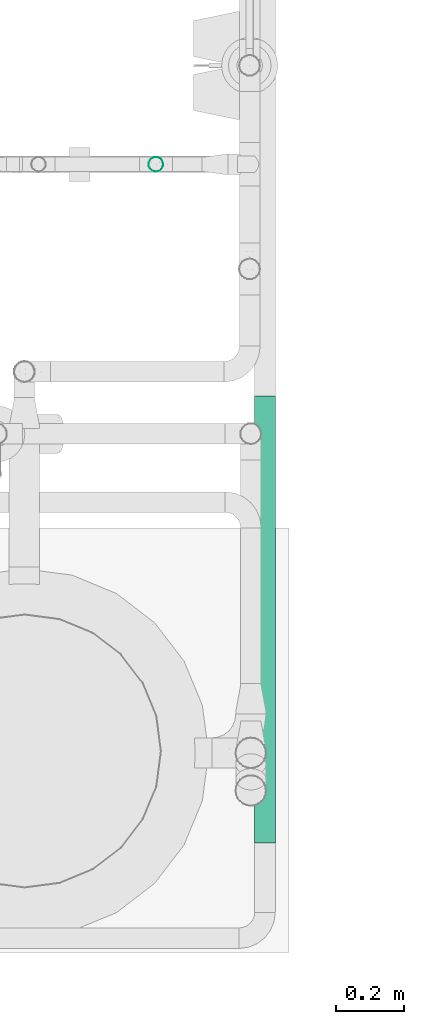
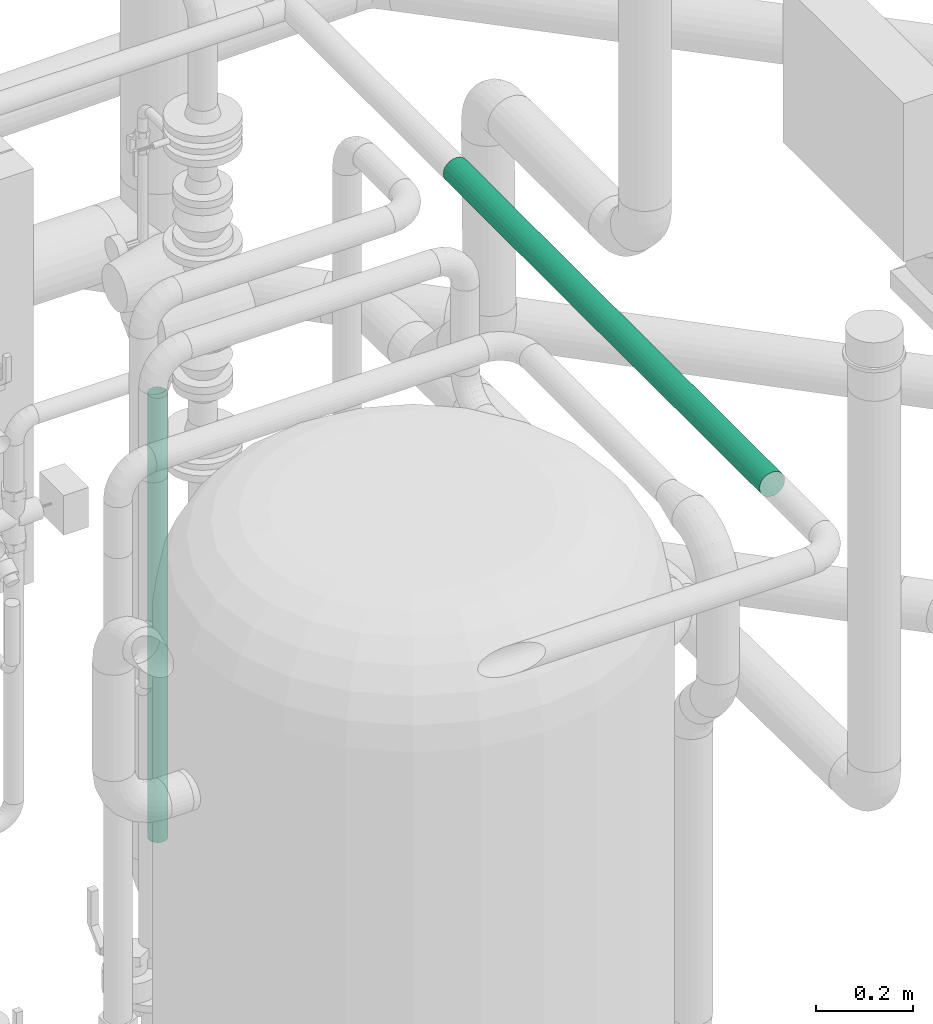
# One storey, part 215 of 374: 2 flow segments.
"""IFC2X3 building model written with IfcOpenShell, lengths in metres."""

from ifc_helpers import new_model, si_unit, direction, origin, place, context, subcontext, project, spatial, open_shell, surface_model, source, transform, mapped, element, save


model = new_model("IFC2X3")

# Units and contexts
model_context = context("Model", 3, precision=1e-05, world=origin(), true_north=direction((-0.4480736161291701, 0.8939966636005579)))
body_context = subcontext(model_context, "Body", "Model", "MODEL_VIEW")
ifc_project = project(units=[si_unit("LENGTHUNIT", "METRE"), si_unit("AREAUNIT", "SQUARE_METRE"), si_unit("VOLUMEUNIT", "CUBIC_METRE"), si_unit("PLANEANGLEUNIT", "RADIAN"), si_unit("THERMODYNAMICTEMPERATUREUNIT", "KELVIN"), si_unit("MASSUNIT", "GRAM", prefix="KILO"), si_unit("TIMEUNIT", "SECOND")], contexts=[model_context])

# Site, building, storey
site_placement = place(None, origin())
site = spatial("IfcSite", under=ifc_project, at=site_placement, Name="Site 1", CompositionType="ELEMENT")
building_placement = place(site_placement, origin())
building = spatial("IfcBuilding", under=site, at=building_placement, Name="Undefined", CompositionType="ELEMENT")
storey_placement = place(building_placement, origin())
storey = spatial("IfcBuildingStorey", under=building, at=storey_placement, Name="Rez de chauss\x8ee", CompositionType="ELEMENT", Elevation=0.0)

# Flow segments
shared_shape_1 = source(origin(), body_context, "Body", "SurfaceModel", [
    surface_model("IfcFaceBasedSurfaceModel", [(0.0, 0.007870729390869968, 7.105427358e-15), (0.0, 0.0, 0.0), (1.309289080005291, 0.0, 0.0), (1.309289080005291, 0.007870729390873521, 0.0), (0.0, -0.00760254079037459, -0.0020370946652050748), (1.309289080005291, -0.007602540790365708, -0.002037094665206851), (0.0, -0.01441879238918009, -0.00597245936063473), (1.309289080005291, -0.014418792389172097, -0.005972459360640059), (0.0, -0.019984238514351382, -0.011537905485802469), (1.309289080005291, -0.01998423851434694, -0.011537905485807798), (0.0, -0.023919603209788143, -0.018354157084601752), (1.309289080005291, -0.023919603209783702, -0.018354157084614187), (0.0, -0.025956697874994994, -0.025956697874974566), (1.309289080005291, -0.02595669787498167, -0.025956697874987), (0.0, -0.025956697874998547, -0.03382742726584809), (1.309289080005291, -0.025956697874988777, -0.03382742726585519), (0.0, -0.02391960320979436, -0.041429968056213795), (1.309289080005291, -0.023919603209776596, -0.04142996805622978), (0.0, -0.019984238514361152, -0.04824621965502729), (1.309289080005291, -0.019984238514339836, -0.048246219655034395), (0.0, -0.01441879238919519, -0.05381166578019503), (1.309289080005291, -0.014418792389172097, -0.053811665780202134), (0.0, -0.007602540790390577, -0.05774703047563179), (1.309289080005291, -0.007602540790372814, -0.05774703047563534), (0.0, -1.7763568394e-14, -0.05978412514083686), (1.309289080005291, 7.105427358e-15, -0.059784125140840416), (0.0, 0.007870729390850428, -0.05978412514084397), (1.309289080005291, 0.007870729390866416, -0.05978412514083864), (0.0, 0.015473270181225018, -0.057747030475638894), (1.309289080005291, 0.01547327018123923, -0.057747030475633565), (0.0, 0.022289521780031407, -0.05381166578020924), (1.309289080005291, 0.022289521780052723, -0.05381166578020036), (0.0, 0.027854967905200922, -0.048246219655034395), (1.309289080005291, 0.027854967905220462, -0.04824621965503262), (0.0, 0.031790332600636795, -0.04142996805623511), (1.309289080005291, 0.03179033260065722, -0.041429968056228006), (0.0, 0.033827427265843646, -0.0338274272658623), (1.309289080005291, 0.03382742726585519, -0.033827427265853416), (0.0, 0.0338274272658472, -0.025956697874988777), (1.309289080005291, 0.0338274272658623, -0.025956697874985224), (0.0, 0.0317903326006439, -0.01835415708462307), (1.309289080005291, 0.03179033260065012, -0.01835415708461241), (0.0, 0.02785496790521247, -0.01153790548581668), (1.309289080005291, 0.027854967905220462, -0.011537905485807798), (0.0, 0.022289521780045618, -0.005972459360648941), (1.309289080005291, 0.022289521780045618, -0.0059724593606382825), (0.0, 0.015473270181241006, -0.0020370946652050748), (1.309289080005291, 0.01547327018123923, -0.0020370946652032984)], [open_shell([[[0, 1, 2, 3]], [[1, 4, 5, 2]], [[4, 6, 7, 5]], [[6, 8, 9, 7]], [[8, 10, 11, 9]], [[10, 12, 13, 11]], [[12, 14, 15, 13]], [[14, 16, 17, 15]], [[16, 18, 19, 17]], [[18, 20, 21, 19]], [[20, 22, 23, 21]], [[22, 24, 25, 23]], [[24, 26, 27, 25]], [[26, 28, 29, 27]], [[28, 30, 31, 29]], [[30, 32, 33, 31]], [[32, 34, 35, 33]], [[34, 36, 37, 35]], [[36, 38, 39, 37]], [[38, 40, 41, 39]], [[40, 42, 43, 41]], [[42, 44, 45, 43]], [[44, 46, 47, 45]], [[46, 0, 3, 47]]])]),
])
flow_segment_1_placement = place(storey_placement, origin())
element("IfcFlowSegment", 1, at=flow_segment_1_placement, inside=storey, Name="Tube acier d'après DIN 2448", ObjectType="Tube acier d'après DIN 2448", context=body_context, shape_type="MappedRepresentation", body=[
    mapped(shared_shape_1, transform((55.03628549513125, 9.719086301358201, 2.158877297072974), x_axis=(0.0, 1.0, 0.0), y_axis=(0.9914448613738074, 0.0, -0.13052619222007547), z_axis=(-0.13052619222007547, 0.0, -0.9914448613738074))),
])
shared_shape_2 = source(origin(), body_context, "Body", "SurfaceModel", [
    surface_model("IfcFaceBasedSurfaceModel", [(0.0, 0.005534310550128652, 0.0), (0.0, 0.0, 0.0), (1.1225379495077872, 7.105427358e-15, 0.0), (1.1225379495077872, 0.005534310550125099, 1.776356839e-15), (0.0, -0.00534573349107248, -0.0014323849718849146), (1.1225379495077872, -0.005345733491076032, -0.001432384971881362), (0.0, -0.010138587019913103, -0.004199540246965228), (1.1225379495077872, -0.010138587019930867, -0.004199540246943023), (0.0, -0.01405193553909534, -0.008112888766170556), (1.1225379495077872, -0.014051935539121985, -0.008112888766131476), (0.0, -0.016819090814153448, -0.012905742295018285), (1.1225379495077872, -0.01681909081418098, -0.012905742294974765), (0.0, -0.018251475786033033, -0.018251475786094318), (1.1225379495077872, -0.018251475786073, -0.018251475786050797), (0.0, -0.0182514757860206, -0.02378578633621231), (1.1225379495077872, -0.018251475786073, -0.02378578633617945), (0.0, -0.01681909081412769, -0.029131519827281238), (1.1225379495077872, -0.016819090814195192, -0.029131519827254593), (0.0, -0.014051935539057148, -0.03392437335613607), (1.1225379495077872, -0.014051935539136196, -0.03392437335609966), (0.0, -0.010138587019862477, -0.037837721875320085), (1.1225379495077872, -0.010138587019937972, -0.03783772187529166), (0.0, -0.005345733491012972, -0.040604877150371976), (1.1225379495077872, -0.005345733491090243, -0.04060487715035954), (0.0, 6.4837024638e-14, -0.042037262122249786), (1.1225379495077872, -2.1316282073e-14, -0.04203726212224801), (0.0, 0.005534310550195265, -0.04203726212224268), (1.1225379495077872, 0.005534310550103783, -0.0420372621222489), (0.0, 0.010880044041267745, -0.04060487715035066), (1.1225379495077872, 0.010880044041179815, -0.04060487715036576), (0.0, 0.01567289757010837, -0.03783772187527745), (1.1225379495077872, 0.015672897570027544, -0.03783772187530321), (0.0, 0.019586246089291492, -0.033924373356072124), (1.1225379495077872, 0.019586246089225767, -0.03392437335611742), (0.0, 0.0223534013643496, -0.029131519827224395), (1.1225379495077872, 0.02235340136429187, -0.029131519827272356), (0.0, 0.02378578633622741, -0.023785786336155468), (1.1225379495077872, 0.02378578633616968, -0.02378578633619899), (0.0, 0.023785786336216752, -0.01825147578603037), (1.1225379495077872, 0.02378578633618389, -0.018251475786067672), (0.0, 0.022353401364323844, -0.012905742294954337), (1.1225379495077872, 0.022353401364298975, -0.012905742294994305), (0.0, 0.019586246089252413, -0.008112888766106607), (1.1225379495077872, 0.019586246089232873, -0.008112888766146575), (0.0, 0.015672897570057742, -0.004199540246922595), (1.1225379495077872, 0.015672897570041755, -0.004199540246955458), (0.0, 0.010880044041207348, -0.0014323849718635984), (1.1225379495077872, 0.010880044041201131, -0.0014323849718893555)], [open_shell([[[0, 1, 2, 3]], [[1, 4, 5, 2]], [[4, 6, 7, 5]], [[6, 8, 9, 7]], [[8, 10, 11, 9]], [[10, 12, 13, 11]], [[12, 14, 15, 13]], [[14, 16, 17, 15]], [[16, 18, 19, 17]], [[18, 20, 21, 19]], [[20, 22, 23, 21]], [[22, 24, 25, 23]], [[24, 26, 27, 25]], [[26, 28, 29, 27]], [[28, 30, 31, 29]], [[30, 32, 33, 31]], [[32, 34, 35, 33]], [[34, 36, 37, 35]], [[36, 38, 39, 37]], [[38, 40, 41, 39]], [[40, 42, 43, 41]], [[42, 44, 45, 43]], [[44, 46, 47, 45]], [[46, 0, 3, 47]]])]),
])
flow_segment_2_placement = place(storey_placement, origin())
element("IfcFlowSegment", 2, at=flow_segment_2_placement, inside=storey, Name="Tube acier d'après DIN 2448", ObjectType="Tube acier d'après DIN 2448", context=body_context, shape_type="MappedRepresentation", body=[
    mapped(shared_shape_2, transform((54.71896163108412, 11.728562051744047, 0.2024759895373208), x_axis=(0.0, 0.0, 1.0), y_axis=(0.9914448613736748, 0.13052619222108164, 0.0), z_axis=(-0.13052619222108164, 0.9914448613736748, 0.0))),
])

save(model, "model.ifc")
